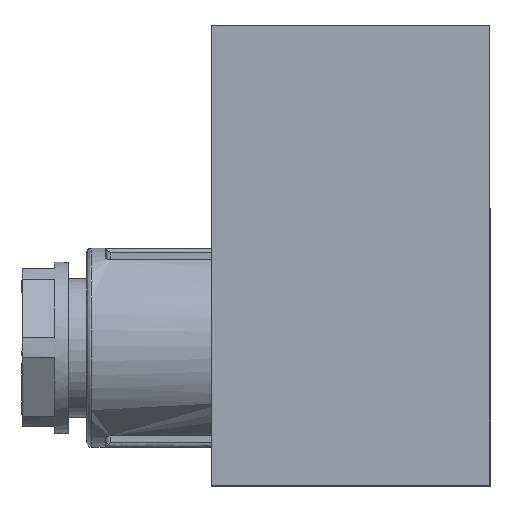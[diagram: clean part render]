
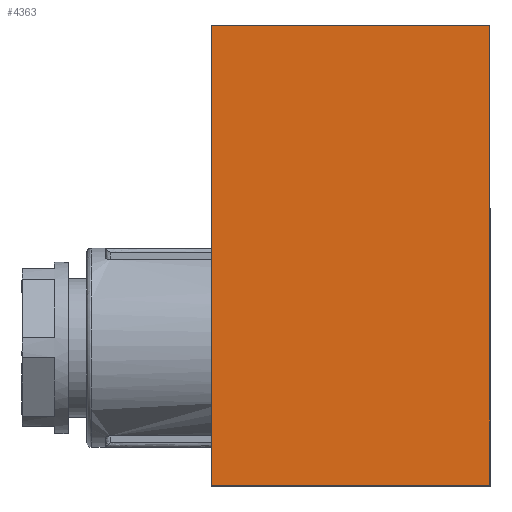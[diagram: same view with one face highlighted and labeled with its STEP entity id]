
A CAD part, top view. The second image highlights one B-rep face of the part: STEP entity #4363.
In plain terms, the highlighted free-form (B-spline) face has degree [1, 1] with [2, 2] control points.
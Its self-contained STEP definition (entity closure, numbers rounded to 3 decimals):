
#4328=CARTESIAN_POINT('F38',(-16.5,-17.48,
   76.0));
#4329=CARTESIAN_POINT('F38',(16.5,-17.48,
   76.0));
#4330=CARTESIAN_POINT('F38',(-16.5,37.08,
   76.0));
#4331=CARTESIAN_POINT('F38',(16.5,37.08,
   76.0));
#4332=QUASI_UNIFORM_SURFACE('F38',1,1,((#4328,#4330),(#4329,#4331))
,.PLANE_SURF.,.F.,.F.,.U.);
#4333=CARTESIAN_POINT('V49',(-15.0,34.6,76.0));
#4334=VERTEX_POINT('V49',#4333);
#4335=CARTESIAN_POINT('V50',(15.0,34.6,76.0));
#4336=VERTEX_POINT('V50',#4335);
#4337=CARTESIAN_POINT('E74',(-15.0,34.6,76.0));
#4338=CARTESIAN_POINT('E74',(15.0,34.6,76.0));
#4339=QUASI_UNIFORM_CURVE('E74',1,(#4337,#4338),.POLYLINE_FORM.,.F.,
   .U.);
#4340=EDGE_CURVE('E74',#4334,#4336,#4339,.T.);
#4341=ORIENTED_EDGE('E74',*,*,#4340,.F.);
#4342=CARTESIAN_POINT('V59',(-15.0,-15.0,76.0));
#4343=VERTEX_POINT('V59',#4342);
#4344=CARTESIAN_POINT('E89',(-15.0,-15.0,76.0));
#4345=CARTESIAN_POINT('E89',(-15.0,34.6,76.0));
#4346=QUASI_UNIFORM_CURVE('E89',1,(#4344,#4345),.POLYLINE_FORM.,.F.,
   .U.);
#4347=EDGE_CURVE('E89',#4343,#4334,#4346,.T.);
#4348=ORIENTED_EDGE('E89',*,*,#4347,.F.);
#4349=CARTESIAN_POINT('V60',(15.0,-15.0,76.0));
#4350=VERTEX_POINT('V60',#4349);
#4351=CARTESIAN_POINT('E92',(15.0,-15.0,76.0));
#4352=CARTESIAN_POINT('E92',(-15.0,-15.0,76.0));
#4353=QUASI_UNIFORM_CURVE('E92',1,(#4351,#4352),.POLYLINE_FORM.,.F.,
   .U.);
#4354=EDGE_CURVE('E92',#4350,#4343,#4353,.T.);
#4355=ORIENTED_EDGE('E92',*,*,#4354,.F.);
#4356=CARTESIAN_POINT('E90',(15.0,34.6,76.0));
#4357=CARTESIAN_POINT('E90',(15.0,-15.0,76.0));
#4358=QUASI_UNIFORM_CURVE('E90',1,(#4356,#4357),.POLYLINE_FORM.,.F.,
   .U.);
#4359=EDGE_CURVE('E90',#4336,#4350,#4358,.T.);
#4360=ORIENTED_EDGE('E90',*,*,#4359,.F.);
#4361=EDGE_LOOP('F38',(#4341,#4348,#4355,#4360));
#4362=FACE_OUTER_BOUND('F38',#4361,.T.);
#4363=ADVANCED_FACE('F38',(#4362),#4332,.T.);
